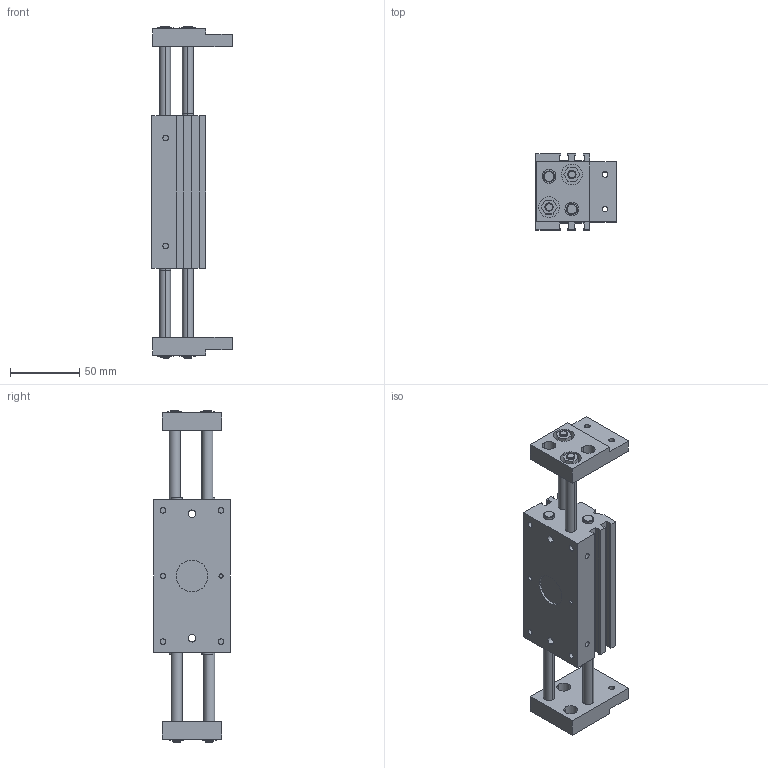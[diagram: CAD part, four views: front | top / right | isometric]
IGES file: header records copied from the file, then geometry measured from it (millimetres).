
Global section: file name: No Iges File Name specified; native system: AutoDesk Inventor R11.0; preprocessor: AutoDesk Inventor Iges Exporter R11.0; author: No Author specified; organization: No Organization specified; date: 20070224.105336; units: millimetre
Bounding box: 58 x 55 x 240 mm (x, y, z)
Volume: 277128 mm3; surface area: 78744.3 mm2
Topology: 3 solids, 3 shells, 203 faces, 494 edges, 324 vertices
Faces by surface type: plane 101, bspline 56, cylinder 16, cone 16, revolution 14
